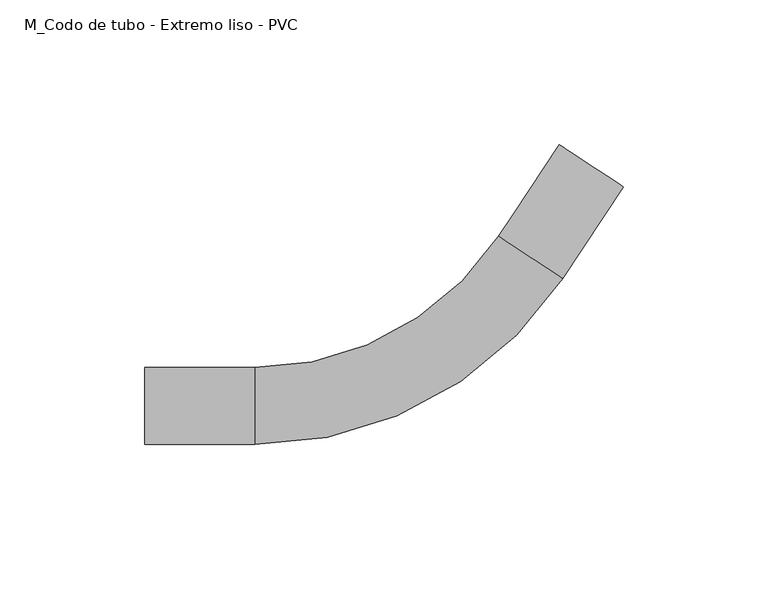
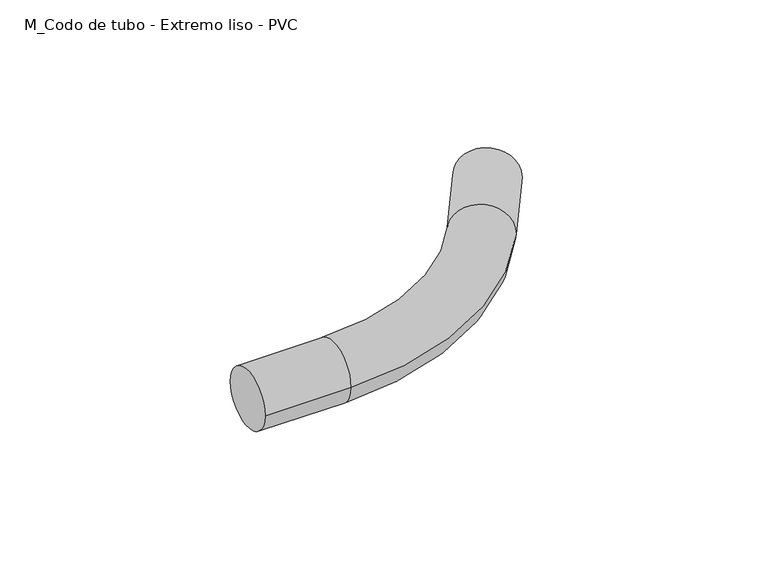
"""IFC4 building model written with IfcOpenShell, lengths in millimetres: cable carrier fitting geometry, M_Codo de tubo - Extremo liso - PVC : CODO ILUMINACION."""

from ifc_helpers import new_model, si_unit, point, frame, origin, place, context, project, spatial, circle_curve, ellipse_curve, trimmed, source, transform, mapped, element, save
from ifc_brep_helpers import plane_surface, cylinder_surface, revolved_surface, advanced_brep


def m_codo_de_tubo_extremo_liso_pvc_f81803ff(model_context):
    return source(origin(), model_context, "Body", "AdvancedBrep", [
        advanced_brep(
        [(-99.6399334, -13.335, 0.0), (-99.6399334, 13.335, 0.0), (-61.5399334, -13.335, 0.0), (-61.5399334, 13.335, 0.0), (22.7472574, 58.7158233, 0.0), (45.0117983, 44.0332106, 0.0), (65.9869594, 75.8396977, 0.0), (43.7224184, 90.5223104, 0.0)],
        [
            (0, 1, circle_curve(frame((-99.6399334, 0.0, 0.0), z_axis=(-1.0, 0.0, 0.0), x_axis=(0.0, 1.0, 0.0)), 13.335)),
            (1, 0, circle_curve(frame((-99.6399334, 0.0, 0.0), z_axis=(-1.0, 0.0, 0.0), x_axis=(0.0, 1.0, 0.0)), 13.335)),
            (0, 2),
            (2, 3, circle_curve(frame((-61.5399334, 0.0, 0.0), z_axis=(-1.0, 0.0, 0.0), x_axis=(0.0, 1.0, 0.0)), 13.335)),
            (3, 1),
            (3, 2, circle_curve(frame((-61.5399334, 0.0, 0.0), z_axis=(-1.0, 0.0, 0.0), x_axis=(0.0, 1.0, 0.0)), 13.335)),
            (4, 3, circle_curve(frame((-61.5399334, 114.3, 0.0), z_axis=(0.0, 0.0, -1.0), x_axis=(0.0, -1.0, 0.0)), 100.965)),
            (2, 5, circle_curve(frame((-61.5399334, 114.3, 0.0), z_axis=(0.0, 0.0, 1.0), x_axis=(0.0, -1.0, 0.0)), 127.635)),
            (5, 4, circle_curve(frame((33.8795279, 51.3745169, 0.0), z_axis=(-0.5505291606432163, -0.8348159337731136, 0.0), x_axis=(-0.8348159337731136, 0.5505291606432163, 0.0)), 13.335)),
            (4, 5, circle_curve(frame((33.8795279, 51.3745169, 0.0), z_axis=(-0.5505291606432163, -0.8348159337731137, 0.0), x_axis=(-0.8348159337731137, 0.5505291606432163, 0.0)), 13.335)),
            (6, 7, circle_curve(frame((54.8546889, 83.181004, 0.0), z_axis=(0.5505291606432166, 0.8348159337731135, 0.0), x_axis=(-0.8348159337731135, 0.5505291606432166, 0.0)), 13.335)),
            (7, 6, circle_curve(frame((54.8546889, 83.181004, 0.0), z_axis=(0.5505291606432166, 0.8348159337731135, 0.0), x_axis=(-0.8348159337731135, 0.5505291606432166, 0.0)), 13.335)),
            (5, 6),
            (7, 4),
        ],
        [
            plane_surface(frame((-99.6399334, 0.0, 0.0), z_axis=(-1.0, 0.0, 0.0), x_axis=(0.0, 0.0, 1.0))),
            cylinder_surface(frame((-99.6399334, 0.0, 0.0), z_axis=(-1.0, 0.0, 0.0), x_axis=(0.0, 1.0, 0.0)), 13.335),
            revolved_surface(trimmed(ellipse_curve(frame((-61.5399334, 0.0, 0.0), z_axis=(-1.0, 0.0, 0.0), x_axis=(0.0, 1.0, 0.0)), 13.335, 13.335), [point((-61.5399334, -13.335, 0.0))], [point((-61.5399334, 13.335, 0.0))], True, "CARTESIAN"), (-61.5399334, 114.3, 0.0), (0.0, 0.0, 1.0)),
            revolved_surface(trimmed(ellipse_curve(frame((-61.5399334, 0.0, 0.0), z_axis=(-1.0, 0.0, 0.0), x_axis=(0.0, 1.0, 0.0)), 13.335, 13.335), [point((-61.5399334, 13.335, 0.0))], [point((-61.5399334, -13.335, 0.0))], True, "CARTESIAN"), (-61.5399334, 114.3, 0.0), (0.0, 0.0, 1.0)),
            plane_surface(frame((54.8546889, 83.181004, 0.0), z_axis=(0.5505291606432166, 0.8348159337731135, 0.0), x_axis=(0.0, 0.0, 1.0))),
            cylinder_surface(frame((33.8795279, 51.3745169, 0.0), z_axis=(-0.5505291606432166, -0.8348159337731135, 0.0), x_axis=(-0.8348159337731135, 0.5505291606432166, 0.0)), 13.335),
        ],
        [
            (0, [[1, 2]]),
            (1, [[-1, 3, 4, 5]]),
            (1, [[-2, -5, 6, -3]]),
            (2, [[7, -4, 8, 9]]),
            (3, [[-8, -6, -7, 10]]),
            (4, [[11, 12]]),
            (5, [[-9, 13, -12, 14]]),
            (5, [[-10, -14, -11, -13]]),
        ],
    ),
    ])


if __name__ == "__main__":
    model = new_model("IFC4")
    model_context = context("Model", 3, world=origin())
    ifc_project = project(units=[si_unit("LENGTHUNIT", "METRE", prefix="MILLI")], contexts=[model_context])
    site = spatial("IfcSite", under=ifc_project)
    building = spatial("IfcBuilding", under=site)
    placement = place(None, origin())
    m_codo_de_tubo_extremo_liso_pvc_shape = m_codo_de_tubo_extremo_liso_pvc_f81803ff(model_context)
    element("IfcCableCarrierFitting", 1, ObjectType="M_Codo de tubo - Extremo liso - PVC : CODO ILUMINACION", at=placement, inside=building, context=model_context, shape_type="MappedRepresentation", body=[
        mapped(m_codo_de_tubo_extremo_liso_pvc_shape, transform((0.0, 0.0, 0.0), x_axis=(1.0, 0.0, 0.0), y_axis=(0.0, 1.0, 0.0), z_axis=(0.0, 0.0, 1.0))),
    ])
    save(model, "model.ifc")
